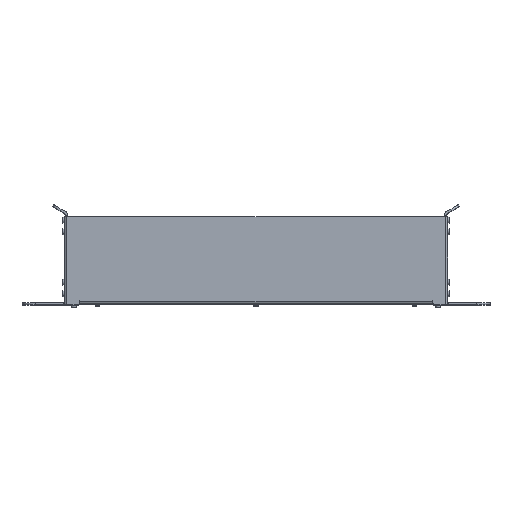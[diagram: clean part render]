
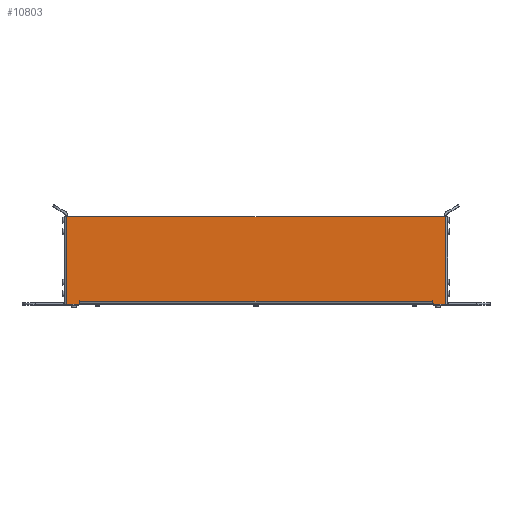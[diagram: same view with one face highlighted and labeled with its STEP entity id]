
A CAD part, top view. The second image highlights one B-rep face of the part: STEP entity #10803.
In plain terms, the highlighted planar face has unit normal (0, 0, 1).
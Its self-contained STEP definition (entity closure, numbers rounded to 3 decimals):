
#195 = CIRCLE ( 'NONE', #7262, 1. ) ;
#298 = VECTOR ( 'NONE', #5344, 1000. ) ;
#515 = ORIENTED_EDGE ( 'NONE', *, *, #7670, .T. ) ;
#673 = EDGE_CURVE ( 'NONE', #11967, #13756, #11836, .T. ) ;
#689 = LINE ( 'NONE', #3926, #12428 ) ;
#1192 = DIRECTION ( 'NONE',  ( 0., 1., 0. ) ) ;
#1259 = CARTESIAN_POINT ( 'NONE',  ( -200.75, 4.5, 187. ) ) ;
#1305 = DIRECTION ( 'NONE',  ( 1., 0., 0. ) ) ;
#1535 = VERTEX_POINT ( 'NONE', #4406 ) ;
#1548 = EDGE_LOOP ( 'NONE', ( #515, #5781, #7329, #11775, #1813, #8930, #10538, #7774, #3624, #10583, #12358, #9726, #7353 ) ) ;
#1813 = ORIENTED_EDGE ( 'NONE', *, *, #673, .T. ) ;
#1912 = CARTESIAN_POINT ( 'NONE',  ( 201., 2., 187. ) ) ;
#1948 = CARTESIAN_POINT ( 'NONE',  ( -213., 1., 187. ) ) ;
#1978 = CARTESIAN_POINT ( 'NONE',  ( 215., 100., 187. ) ) ;
#2231 = DIRECTION ( 'NONE',  ( 0., 0., 1. ) ) ;
#2271 = CARTESIAN_POINT ( 'NONE',  ( -200.5, 1., 187. ) ) ;
#2407 = CARTESIAN_POINT ( 'NONE',  ( 0., 1., 187. ) ) ;
#2424 = DIRECTION ( 'NONE',  ( 1., 0., 0. ) ) ;
#2847 = VECTOR ( 'NONE', #11046, 1000. ) ;
#3060 = CARTESIAN_POINT ( 'NONE',  ( -200.5, 4.5, 187. ) ) ;
#3135 = VECTOR ( 'NONE', #10619, 1000. ) ;
#3227 = EDGE_CURVE ( 'NONE', #4177, #14340, #8919, .T. ) ;
#3380 = CARTESIAN_POINT ( 'NONE',  ( 215., 1., 187. ) ) ;
#3624 = ORIENTED_EDGE ( 'NONE', *, *, #4132, .T. ) ;
#3664 = EDGE_CURVE ( 'NONE', #14340, #11585, #689, .T. ) ;
#3819 = LINE ( 'NONE', #7541, #12523 ) ;
#3926 = CARTESIAN_POINT ( 'NONE',  ( -201., 1., 187. ) ) ;
#3962 = VERTEX_POINT ( 'NONE', #3060 ) ;
#4051 = DIRECTION ( 'NONE',  ( 0., -1., 0. ) ) ;
#4093 = DIRECTION ( 'NONE',  ( 1., 0., 0. ) ) ;
#4132 = EDGE_CURVE ( 'NONE', #11585, #3962, #10970, .T. ) ;
#4177 = VERTEX_POINT ( 'NONE', #13795 ) ;
#4406 = CARTESIAN_POINT ( 'NONE',  ( 200.5, 4., 187. ) ) ;
#4739 = DIRECTION ( 'NONE',  ( 1., 0., 0. ) ) ;
#4906 = EDGE_CURVE ( 'NONE', #6862, #1535, #3819, .T. ) ;
#5043 = FACE_OUTER_BOUND ( 'NONE', #1548, .T. ) ;
#5344 = DIRECTION ( 'NONE',  ( 0., 1., 0. ) ) ;
#5662 = DIRECTION ( 'NONE',  ( 0., -1., 0. ) ) ;
#5781 = ORIENTED_EDGE ( 'NONE', *, *, #12493, .T. ) ;
#5850 = PLANE ( 'NONE',  #13407 ) ;
#5901 = VECTOR ( 'NONE', #5662, 1000. ) ;
#6024 = VECTOR ( 'NONE', #6221, 1000. ) ;
#6030 = EDGE_CURVE ( 'NONE', #13756, #4177, #8771, .T. ) ;
#6087 = CARTESIAN_POINT ( 'NONE',  ( 202., 1., 187. ) ) ;
#6221 = DIRECTION ( 'NONE',  ( 0., -1., 0. ) ) ;
#6354 = CARTESIAN_POINT ( 'NONE',  ( 200.75, 4.5, 187. ) ) ;
#6593 = LINE ( 'NONE', #9158, #9591 ) ;
#6862 = VERTEX_POINT ( 'NONE', #14747 ) ;
#7082 = VERTEX_POINT ( 'NONE', #6087 ) ;
#7098 = LINE ( 'NONE', #9872, #298 ) ;
#7262 = AXIS2_PLACEMENT_3D ( 'NONE', #9041, #2231, #10175 ) ;
#7329 = ORIENTED_EDGE ( 'NONE', *, *, #14527, .T. ) ;
#7353 = ORIENTED_EDGE ( 'NONE', *, *, #11050, .T. ) ;
#7472 = DIRECTION ( 'NONE',  ( 1., 0., 0. ) ) ;
#7541 = CARTESIAN_POINT ( 'NONE',  ( -200.5, 4., 187. ) ) ;
#7670 = EDGE_CURVE ( 'NONE', #8114, #14145, #12060, .T. ) ;
#7774 = ORIENTED_EDGE ( 'NONE', *, *, #3664, .T. ) ;
#8114 = VERTEX_POINT ( 'NONE', #13226 ) ;
#8162 = DIRECTION ( 'NONE',  ( 0., 0., 1. ) ) ;
#8474 = CARTESIAN_POINT ( 'NONE',  ( 201., 1., 187. ) ) ;
#8702 = CARTESIAN_POINT ( 'NONE',  ( -201., 4.5, 187. ) ) ;
#8771 = LINE ( 'NONE', #12041, #11066 ) ;
#8903 = CARTESIAN_POINT ( 'NONE',  ( 200.5, 4.5, 187. ) ) ;
#8919 = LINE ( 'NONE', #1948, #2847 ) ;
#8930 = ORIENTED_EDGE ( 'NONE', *, *, #6030, .T. ) ;
#9041 = CARTESIAN_POINT ( 'NONE',  ( 202., 2., 187. ) ) ;
#9158 = CARTESIAN_POINT ( 'NONE',  ( 200.5, 1., 187. ) ) ;
#9175 = VERTEX_POINT ( 'NONE', #3380 ) ;
#9225 = DIRECTION ( 'NONE',  ( 0., 0., -1. ) ) ;
#9249 = CARTESIAN_POINT ( 'NONE',  ( -213., 1., 187. ) ) ;
#9544 = LINE ( 'NONE', #9249, #10267 ) ;
#9591 = VECTOR ( 'NONE', #1192, 1000. ) ;
#9726 = ORIENTED_EDGE ( 'NONE', *, *, #13137, .T. ) ;
#9872 = CARTESIAN_POINT ( 'NONE',  ( 215., 1., 187. ) ) ;
#10077 = CARTESIAN_POINT ( 'NONE',  ( -201., 1., 187. ) ) ;
#10175 = DIRECTION ( 'NONE',  ( 1., 0., 0. ) ) ;
#10267 = VECTOR ( 'NONE', #4739, 1000. ) ;
#10285 = EDGE_CURVE ( 'NONE', #3962, #6862, #14619, .T. ) ;
#10359 = CARTESIAN_POINT ( 'NONE',  ( -215., 100., 187. ) ) ;
#10538 = ORIENTED_EDGE ( 'NONE', *, *, #3227, .T. ) ;
#10583 = ORIENTED_EDGE ( 'NONE', *, *, #10285, .T. ) ;
#10619 = DIRECTION ( 'NONE',  ( -1., 0., 0. ) ) ;
#10803 = ADVANCED_FACE ( 'NONE', ( #5043 ), #5850, .T. ) ;
#10970 = CIRCLE ( 'NONE', #13377, 0.25 ) ;
#11046 = DIRECTION ( 'NONE',  ( 1., 0., 0. ) ) ;
#11050 = EDGE_CURVE ( 'NONE', #13576, #8114, #13203, .T. ) ;
#11066 = VECTOR ( 'NONE', #4051, 1000. ) ;
#11585 = VERTEX_POINT ( 'NONE', #8702 ) ;
#11775 = ORIENTED_EDGE ( 'NONE', *, *, #14125, .T. ) ;
#11836 = LINE ( 'NONE', #14089, #3135 ) ;
#11913 = DIRECTION ( 'NONE',  ( 0., 1., 0. ) ) ;
#11967 = VERTEX_POINT ( 'NONE', #1978 ) ;
#12041 = CARTESIAN_POINT ( 'NONE',  ( -215., 100., 187. ) ) ;
#12060 = LINE ( 'NONE', #8474, #6024 ) ;
#12358 = ORIENTED_EDGE ( 'NONE', *, *, #4906, .T. ) ;
#12428 = VECTOR ( 'NONE', #11913, 1000. ) ;
#12493 = EDGE_CURVE ( 'NONE', #14145, #7082, #195, .T. ) ;
#12523 = VECTOR ( 'NONE', #4093, 1000. ) ;
#13120 = AXIS2_PLACEMENT_3D ( 'NONE', #6354, #14275, #7472 ) ;
#13137 = EDGE_CURVE ( 'NONE', #1535, #13576, #6593, .T. ) ;
#13203 = CIRCLE ( 'NONE', #13120, 0.25 ) ;
#13226 = CARTESIAN_POINT ( 'NONE',  ( 201., 4.5, 187. ) ) ;
#13377 = AXIS2_PLACEMENT_3D ( 'NONE', #1259, #9225, #2424 ) ;
#13407 = AXIS2_PLACEMENT_3D ( 'NONE', #2407, #8162, #1305 ) ;
#13576 = VERTEX_POINT ( 'NONE', #8903 ) ;
#13756 = VERTEX_POINT ( 'NONE', #10359 ) ;
#13795 = CARTESIAN_POINT ( 'NONE',  ( -215., 1., 187. ) ) ;
#14089 = CARTESIAN_POINT ( 'NONE',  ( -213., 100., 187. ) ) ;
#14125 = EDGE_CURVE ( 'NONE', #9175, #11967, #7098, .T. ) ;
#14145 = VERTEX_POINT ( 'NONE', #1912 ) ;
#14275 = DIRECTION ( 'NONE',  ( 0., 0., -1. ) ) ;
#14340 = VERTEX_POINT ( 'NONE', #10077 ) ;
#14527 = EDGE_CURVE ( 'NONE', #7082, #9175, #9544, .T. ) ;
#14619 = LINE ( 'NONE', #2271, #5901 ) ;
#14747 = CARTESIAN_POINT ( 'NONE',  ( -200.5, 4., 187. ) ) ;
